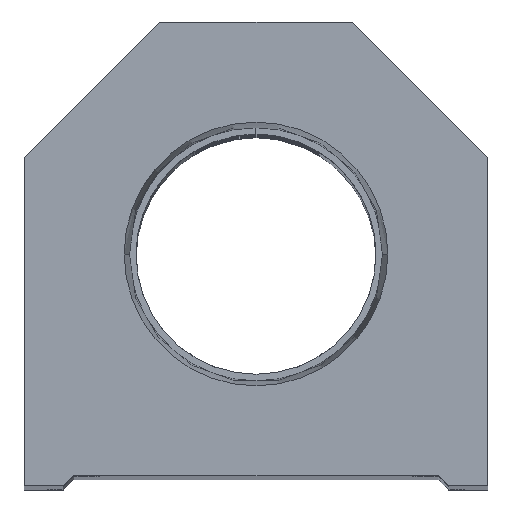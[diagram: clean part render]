
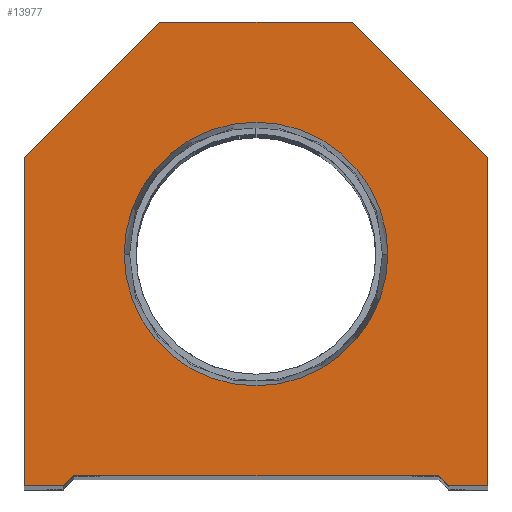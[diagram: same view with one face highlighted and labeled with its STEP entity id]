
A CAD part, top view. The second image highlights one B-rep face of the part: STEP entity #13977.
In plain terms, the highlighted planar face has unit normal (0, 0, 1).
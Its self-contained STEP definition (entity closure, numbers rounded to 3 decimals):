
#91 = VECTOR ( 'NONE', #371, 1000. ) ;
#276 = CARTESIAN_POINT ( 'NONE',  ( -17.5, 0., 0. ) ) ;
#348 = DIRECTION ( 'NONE',  ( -0.707, 0.707, 0. ) ) ;
#371 = DIRECTION ( 'NONE',  ( -0.707, -0.707, 0. ) ) ;
#378 = LINE ( 'NONE', #1544, #4812 ) ;
#465 = VECTOR ( 'NONE', #1784, 1000. ) ;
#494 = CARTESIAN_POINT ( 'NONE',  ( 0., 22.25, 0. ) ) ;
#507 = VERTEX_POINT ( 'NONE', #11806 ) ;
#553 = EDGE_CURVE ( 'NONE', #13965, #7985, #5030, .T. ) ;
#613 = ORIENTED_EDGE ( 'NONE', *, *, #553, .T. ) ;
#688 = LINE ( 'NONE', #9745, #465 ) ;
#713 = CARTESIAN_POINT ( 'NONE',  ( 17.5, 0., 0. ) ) ;
#745 = DIRECTION ( 'NONE',  ( 1., 0., 0. ) ) ;
#789 = DIRECTION ( 'NONE',  ( 0., 1., 0. ) ) ;
#792 = VECTOR ( 'NONE', #1016, 1000. ) ;
#835 = DIRECTION ( 'NONE',  ( 1., 0., 0. ) ) ;
#972 = CARTESIAN_POINT ( 'NONE',  ( 22.25, 31.5, 0. ) ) ;
#980 = DIRECTION ( 'NONE',  ( 1., 0., 0. ) ) ;
#1016 = DIRECTION ( 'NONE',  ( 0.707, -0.707, 0. ) ) ;
#1485 = EDGE_CURVE ( 'NONE', #7985, #6995, #13183, .T. ) ;
#1544 = CARTESIAN_POINT ( 'NONE',  ( -9.25, 9.25, 0. ) ) ;
#1550 = VECTOR ( 'NONE', #789, 1000. ) ;
#1784 = DIRECTION ( 'NONE',  ( 0., -1., 0. ) ) ;
#2494 = CARTESIAN_POINT ( 'NONE',  ( -22.25, 31.5, 0. ) ) ;
#3072 = CARTESIAN_POINT ( 'NONE',  ( 9.25, 9.25, 0. ) ) ;
#3745 = VECTOR ( 'NONE', #348, 1000. ) ;
#3830 = ORIENTED_EDGE ( 'NONE', *, *, #9756, .F. ) ;
#3856 = ORIENTED_EDGE ( 'NONE', *, *, #7874, .T. ) ;
#3978 = DIRECTION ( 'NONE',  ( 0., 0., 1. ) ) ;
#4145 = ORIENTED_EDGE ( 'NONE', *, *, #13393, .T. ) ;
#4256 = VERTEX_POINT ( 'NONE', #14090 ) ;
#4297 = AXIS2_PLACEMENT_3D ( 'NONE', #494, #7297, #9412 ) ;
#4348 = DIRECTION ( 'NONE',  ( 0., 0., 1. ) ) ;
#4373 = ORIENTED_EDGE ( 'NONE', *, *, #12938, .F. ) ;
#4769 = CARTESIAN_POINT ( 'NONE',  ( -9.25, 44.5, 0. ) ) ;
#4812 = VECTOR ( 'NONE', #4839, 1000. ) ;
#4839 = DIRECTION ( 'NONE',  ( 0.707, 0.707, 0. ) ) ;
#4904 = LINE ( 'NONE', #2494, #91 ) ;
#4954 = VERTEX_POINT ( 'NONE', #13999 ) ;
#5030 = LINE ( 'NONE', #713, #6844 ) ;
#5065 = VERTEX_POINT ( 'NONE', #5468 ) ;
#5387 = CARTESIAN_POINT ( 'NONE',  ( 22.25, 0., 0. ) ) ;
#5468 = CARTESIAN_POINT ( 'NONE',  ( -12.647, 22.25, 0. ) ) ;
#5992 = ORIENTED_EDGE ( 'NONE', *, *, #7829, .T. ) ;
#6433 = EDGE_CURVE ( 'NONE', #14116, #7916, #8491, .T. ) ;
#6844 = VECTOR ( 'NONE', #8460, 1000. ) ;
#6995 = VERTEX_POINT ( 'NONE', #972 ) ;
#7293 = CARTESIAN_POINT ( 'NONE',  ( 17.5, 1., 0. ) ) ;
#7297 = DIRECTION ( 'NONE',  ( 0., 0., 1. ) ) ;
#7321 = VERTEX_POINT ( 'NONE', #4769 ) ;
#7420 = CARTESIAN_POINT ( 'NONE',  ( 18.5, 0., 0. ) ) ;
#7829 = EDGE_CURVE ( 'NONE', #6995, #4954, #11441, .T. ) ;
#7874 = EDGE_CURVE ( 'NONE', #7982, #507, #9260, .T. ) ;
#7916 = VERTEX_POINT ( 'NONE', #7293 ) ;
#7982 = VERTEX_POINT ( 'NONE', #14346 ) ;
#7985 = VERTEX_POINT ( 'NONE', #5387 ) ;
#8164 = AXIS2_PLACEMENT_3D ( 'NONE', #13158, #3978, #835 ) ;
#8334 = ORIENTED_EDGE ( 'NONE', *, *, #9825, .T. ) ;
#8460 = DIRECTION ( 'NONE',  ( 1., 0., 0. ) ) ;
#8491 = LINE ( 'NONE', #10599, #9789 ) ;
#8740 = FACE_OUTER_BOUND ( 'NONE', #10496, .T. ) ;
#9248 = CARTESIAN_POINT ( 'NONE',  ( 12.647, 22.25, 0. ) ) ;
#9260 = LINE ( 'NONE', #276, #11429 ) ;
#9412 = DIRECTION ( 'NONE',  ( 1., 0., 0. ) ) ;
#9745 = CARTESIAN_POINT ( 'NONE',  ( -22.25, 0., 0. ) ) ;
#9756 = EDGE_CURVE ( 'NONE', #13877, #5065, #11927, .T. ) ;
#9789 = VECTOR ( 'NONE', #745, 1000. ) ;
#9825 = EDGE_CURVE ( 'NONE', #4256, #7982, #688, .T. ) ;
#9894 = CIRCLE ( 'NONE', #4297, 12.647 ) ;
#9971 = CARTESIAN_POINT ( 'NONE',  ( 0., 0., 0. ) ) ;
#10224 = LINE ( 'NONE', #11311, #11195 ) ;
#10257 = EDGE_CURVE ( 'NONE', #4954, #7321, #10224, .T. ) ;
#10351 = CARTESIAN_POINT ( 'NONE',  ( 22.25, 31.5, 0. ) ) ;
#10364 = DIRECTION ( 'NONE',  ( -1., 0., 0. ) ) ;
#10471 = ORIENTED_EDGE ( 'NONE', *, *, #6433, .T. ) ;
#10496 = EDGE_LOOP ( 'NONE', ( #3856, #12892, #10471, #13267, #613, #11616, #5992, #10601, #4145, #8334 ) ) ;
#10499 = CARTESIAN_POINT ( 'NONE',  ( -17.5, 1., 0. ) ) ;
#10545 = EDGE_LOOP ( 'NONE', ( #3830, #4373 ) ) ;
#10599 = CARTESIAN_POINT ( 'NONE',  ( -17.5, 1., 0. ) ) ;
#10601 = ORIENTED_EDGE ( 'NONE', *, *, #10257, .T. ) ;
#10903 = EDGE_CURVE ( 'NONE', #507, #14116, #378, .T. ) ;
#11075 = CARTESIAN_POINT ( 'NONE',  ( 22.25, 0., 0. ) ) ;
#11195 = VECTOR ( 'NONE', #10364, 1000. ) ;
#11311 = CARTESIAN_POINT ( 'NONE',  ( 9.25, 44.5, 0. ) ) ;
#11429 = VECTOR ( 'NONE', #13687, 1000. ) ;
#11441 = LINE ( 'NONE', #10351, #3745 ) ;
#11616 = ORIENTED_EDGE ( 'NONE', *, *, #1485, .T. ) ;
#11806 = CARTESIAN_POINT ( 'NONE',  ( -18.5, 0., 0. ) ) ;
#11927 = CIRCLE ( 'NONE', #8164, 12.647 ) ;
#12036 = LINE ( 'NONE', #3072, #792 ) ;
#12732 = EDGE_CURVE ( 'NONE', #7916, #13965, #12036, .T. ) ;
#12892 = ORIENTED_EDGE ( 'NONE', *, *, #10903, .T. ) ;
#12938 = EDGE_CURVE ( 'NONE', #5065, #13877, #9894, .T. ) ;
#13158 = CARTESIAN_POINT ( 'NONE',  ( 0., 22.25, 0. ) ) ;
#13169 = PLANE ( 'NONE',  #14317 ) ;
#13183 = LINE ( 'NONE', #11075, #1550 ) ;
#13267 = ORIENTED_EDGE ( 'NONE', *, *, #12732, .T. ) ;
#13393 = EDGE_CURVE ( 'NONE', #7321, #4256, #4904, .T. ) ;
#13687 = DIRECTION ( 'NONE',  ( 1., 0., 0. ) ) ;
#13877 = VERTEX_POINT ( 'NONE', #9248 ) ;
#13965 = VERTEX_POINT ( 'NONE', #7420 ) ;
#13977 = ADVANCED_FACE ( 'NONE', ( #14195, #8740 ), #13169, .T. ) ;
#13999 = CARTESIAN_POINT ( 'NONE',  ( 9.25, 44.5, 0. ) ) ;
#14090 = CARTESIAN_POINT ( 'NONE',  ( -22.25, 31.5, 0. ) ) ;
#14116 = VERTEX_POINT ( 'NONE', #10499 ) ;
#14195 = FACE_BOUND ( 'NONE', #10545, .T. ) ;
#14317 = AXIS2_PLACEMENT_3D ( 'NONE', #9971, #4348, #980 ) ;
#14346 = CARTESIAN_POINT ( 'NONE',  ( -22.25, 0., 0. ) ) ;
